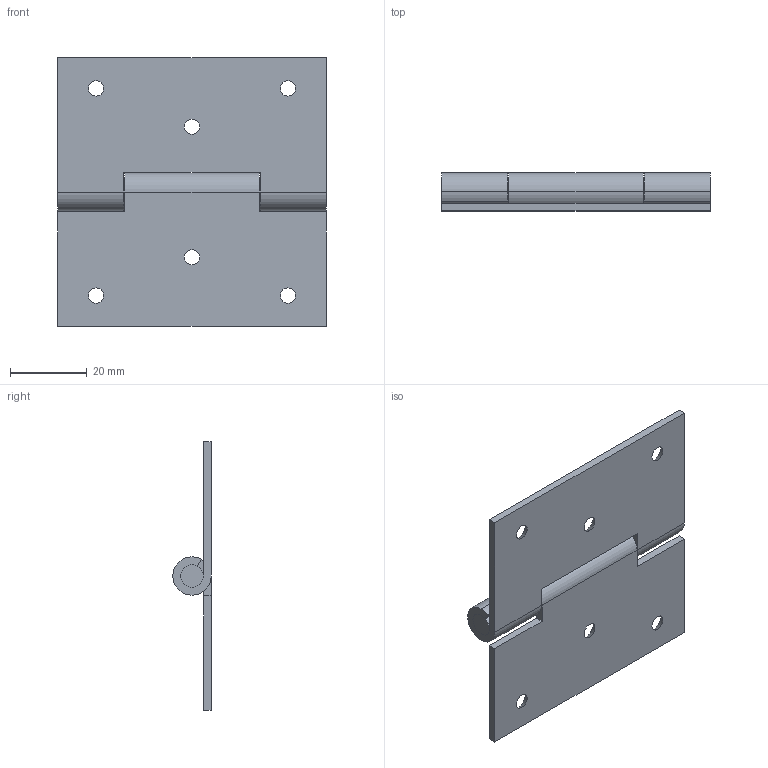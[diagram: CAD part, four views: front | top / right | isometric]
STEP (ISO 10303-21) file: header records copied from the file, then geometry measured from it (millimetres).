
FILE_DESCRIPTION(('STEP AP203'),'1');
FILE_NAME(' ',' ',('TraceParts'),('TraceParts S.A.'),'XStep 1.0',' ',' ');
FILE_SCHEMA(('CONFIG_CONTROL_DESIGN'));
Length unit declared in the file: millimetre
Products named in the file (2): 1; 2
Bounding box: 70 x 10 x 70 mm (x, y, z)
Volume: 13655.3 mm3; surface area: 13312.6 mm2
Topology: 2 solids, 2 shells, 52 faces, 144 edges, 96 vertices
Faces by surface type: plane 22, cylinder 18, cone 12
Entity records: 1804 total; most frequent: DIRECTION 316, CARTESIAN_POINT 294, ORIENTED_EDGE 288, EDGE_CURVE 144, AXIS2_PLACEMENT_3D 118, VERTEX_POINT 96, LINE 80, VECTOR 80
